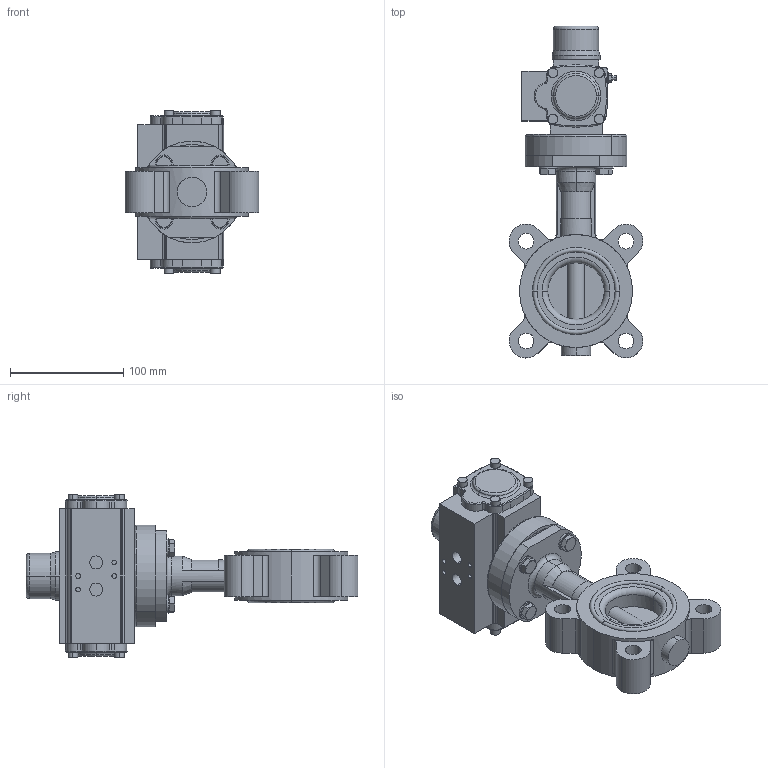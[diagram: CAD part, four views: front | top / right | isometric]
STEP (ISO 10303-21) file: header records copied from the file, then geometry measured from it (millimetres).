
FILE_DESCRIPTION (( 'STEP AP214' ), '1' );
FILE_NAME ('67707.step', '2020-10-26T07:27:34', ( '' ), ( '' ), 'SwSTEP 2.0', 'SolidWorks 2019', '' );
FILE_SCHEMA (( 'AUTOMOTIVE_DESIGN' ));
Length unit declared in the file: millimetre
Products named in the file (10): U-Scheibe DIN 125 A_M8; Zyl-Schr In-6kt DIN 912_M6x16; 6kt-Schr DIN 933_M8x30; 6kt-Mu DIN 934_M8; Flanschadapter F07-F05; TL20-0050_M01; Achtkantreduktion 14-11 mm; 67707; 67335_15x15x2 - L=18; DA0020-V14_01
Assembly tree (21 placements, depth 2):
  67707
    TL20-0050_M01
    Flanschadapter F07-F05
    Achtkantreduktion 14-11 mm
    DA0020-V14_01
    6kt-Schr DIN 933_M8x30  x4
    U-Scheibe DIN 125 A_M8  x4
    67335_15x15x2 - L=18
    6kt-Mu DIN 934_M8  x4
    Zyl-Schr In-6kt DIN 912_M6x16  x4
Bounding box: 118.33 x 293.67 x 144.8 mm (x, y, z)
Volume: 1148302.8 mm3; surface area: 177918.2 mm2
Topology: 22 solids, 22 shells, 952 faces, 2342 edges, 1467 vertices
Faces by surface type: plane 439, cylinder 327, cone 108, torus 58, bspline 20
Entity records: 25433 total; most frequent: CARTESIAN_POINT 5102, DIRECTION 3971, ORIENTED_EDGE 3616, EDGE_CURVE 1808, AXIS2_PLACEMENT_3D 1539, VERTEX_POINT 1164, VECTOR 893, LINE 893
